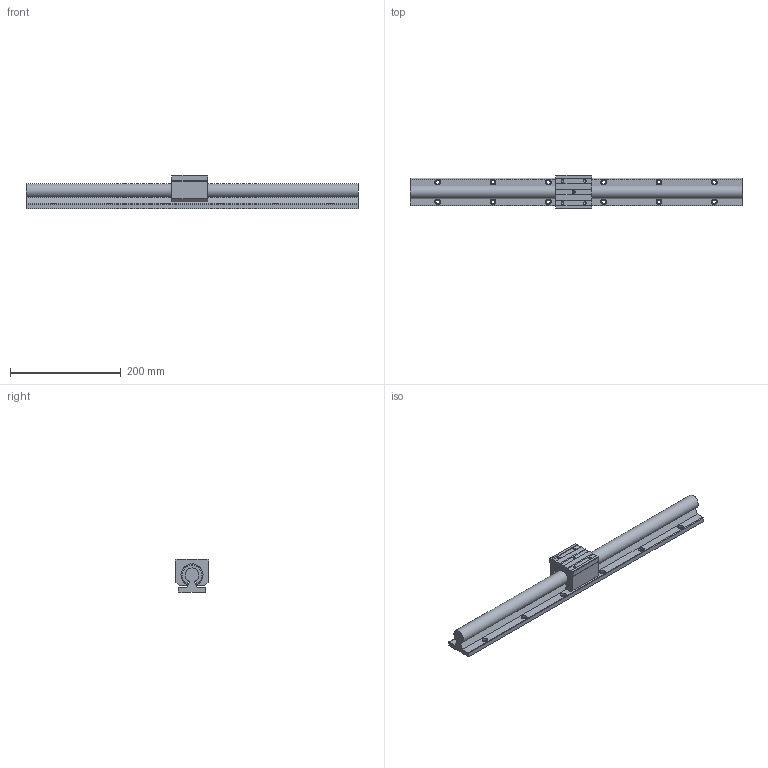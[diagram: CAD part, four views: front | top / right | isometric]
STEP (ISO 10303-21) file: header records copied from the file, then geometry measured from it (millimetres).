
FILE_DESCRIPTION((''),'2;1');
FILE_NAME('D:\製品 (図面)\カタログ用3D\リニアガイド関連\STEP形式\GH(C)\GH(C)25.stp','2010-06-02T15:43:02',('Tsuchiya'),(''),'Autodesk Inventor 10','Autodesk Inventor 10','');
FILE_SCHEMA(('AUTOMOTIVE_DESIGN { 1 0 10303 214 1 1 1 1 }'));
Length unit declared in the file: millimetre
Products named in the file (3): GH(C)25; GH(C)251; GH(C)252
Assembly tree (2 placements, depth 2):
  GH(C)25
    GH(C)251
    GH(C)252
Bounding box: 600 x 60 x 60 mm (x, y, z)
Volume: 777818.9 mm3; surface area: 143849.5 mm2
Topology: 2 solids, 2 shells, 126 faces, 324 edges, 211 vertices
Faces by surface type: plane 56, bspline 42, cylinder 23, cone 3, torus 2
Full cylindrical faces by diameter (mm): 4.917 x2
Entity records: 4134 total; most frequent: CARTESIAN_POINT 1204, ORIENTED_EDGE 566, DIRECTION 553, EDGE_CURVE 283, VERTEX_POINT 204, EDGE_LOOP 197, AXIS2_PLACEMENT_3D 191, VECTOR 171
